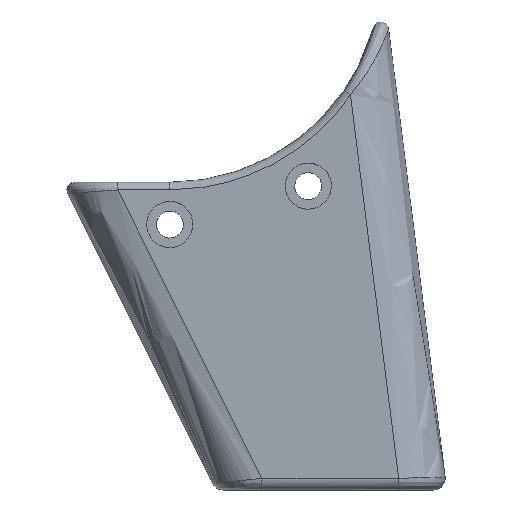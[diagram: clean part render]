
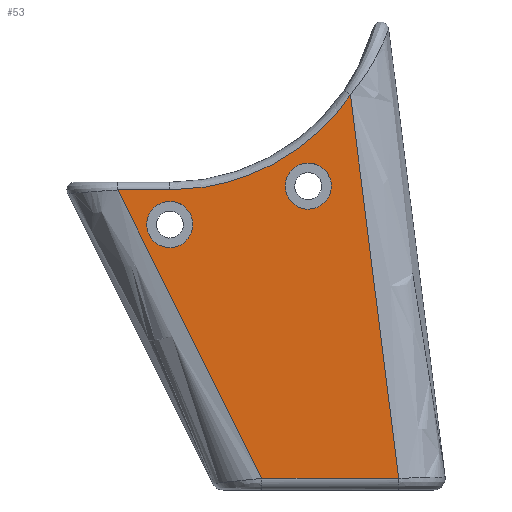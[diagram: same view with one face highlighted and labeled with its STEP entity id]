
A CAD part, top view. The second image highlights one B-rep face of the part: STEP entity #53.
In plain terms, the highlighted planar face has unit normal (0, 0, 1).
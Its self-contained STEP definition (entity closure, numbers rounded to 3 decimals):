
#18=FACE_BOUND('',#136,.T.);
#19=FACE_BOUND('',#137,.T.);
#53=ADVANCED_FACE('',(#92,#18,#19),#613,.T.);
#92=FACE_OUTER_BOUND('',#135,.T.);
#135=EDGE_LOOP('',(#286,#287,#288,#289,#290));
#136=EDGE_LOOP('',(#291,#292));
#137=EDGE_LOOP('',(#293,#294));
#286=ORIENTED_EDGE('',*,*,#353,.F.);
#287=ORIENTED_EDGE('',*,*,#398,.F.);
#288=ORIENTED_EDGE('',*,*,#400,.T.);
#289=ORIENTED_EDGE('',*,*,#401,.F.);
#290=ORIENTED_EDGE('',*,*,#359,.F.);
#291=ORIENTED_EDGE('',*,*,#423,.F.);
#292=ORIENTED_EDGE('',*,*,#402,.F.);
#293=ORIENTED_EDGE('',*,*,#420,.F.);
#294=ORIENTED_EDGE('',*,*,#403,.F.);
#353=EDGE_CURVE('',#536,#538,#435,.T.);
#359=EDGE_CURVE('',#538,#543,#492,.T.);
#398=EDGE_CURVE('',#553,#536,#510,.T.);
#400=EDGE_CURVE('',#553,#550,#512,.T.);
#401=EDGE_CURVE('',#543,#550,#513,.T.);
#402=EDGE_CURVE('',#565,#575,#460,.T.);
#403=EDGE_CURVE('',#563,#573,#461,.T.);
#420=EDGE_CURVE('',#573,#563,#475,.T.);
#423=EDGE_CURVE('',#575,#565,#478,.T.);
#435=(
BOUNDED_CURVE()
B_SPLINE_CURVE(1,(#1234,#1235),.UNSPECIFIED.,.F.,.F.)
B_SPLINE_CURVE_WITH_KNOTS((2,2),(0.5,7.292),
 .UNSPECIFIED.)
CURVE()
GEOMETRIC_REPRESENTATION_ITEM()
RATIONAL_B_SPLINE_CURVE((1.,1.))
REPRESENTATION_ITEM('')
);
#460=(
BOUNDED_CURVE()
B_SPLINE_CURVE(2,(#1429,#1430,#1431,#1432,#1433),.UNSPECIFIED.,.F.,.F.)
B_SPLINE_CURVE_WITH_KNOTS((3,2,3),(-18.85,-14.137,
-9.425),.UNSPECIFIED.)
CURVE()
GEOMETRIC_REPRESENTATION_ITEM()
RATIONAL_B_SPLINE_CURVE((1.,0.707,1.,0.707,1.))
REPRESENTATION_ITEM('')
);
#461=(
BOUNDED_CURVE()
B_SPLINE_CURVE(2,(#1434,#1435,#1436,#1437,#1438),.UNSPECIFIED.,.F.,.F.)
B_SPLINE_CURVE_WITH_KNOTS((3,2,3),(-18.85,-14.137,
-9.425),.UNSPECIFIED.)
CURVE()
GEOMETRIC_REPRESENTATION_ITEM()
RATIONAL_B_SPLINE_CURVE((1.,0.707,1.,0.707,1.))
REPRESENTATION_ITEM('')
);
#475=(
BOUNDED_CURVE()
B_SPLINE_CURVE(2,(#1494,#1495,#1496,#1497,#1498),.UNSPECIFIED.,.F.,.F.)
B_SPLINE_CURVE_WITH_KNOTS((3,2,3),(-9.425,-4.712,
0.),.UNSPECIFIED.)
CURVE()
GEOMETRIC_REPRESENTATION_ITEM()
RATIONAL_B_SPLINE_CURVE((1.,0.707,1.,0.707,1.))
REPRESENTATION_ITEM('')
);
#478=(
BOUNDED_CURVE()
B_SPLINE_CURVE(2,(#1506,#1507,#1508,#1509,#1510),.UNSPECIFIED.,.F.,.F.)
B_SPLINE_CURVE_WITH_KNOTS((3,2,3),(-9.425,-4.712,
0.),.UNSPECIFIED.)
CURVE()
GEOMETRIC_REPRESENTATION_ITEM()
RATIONAL_B_SPLINE_CURVE((1.,0.707,1.,0.707,1.))
REPRESENTATION_ITEM('')
);
#492=B_SPLINE_CURVE_WITH_KNOTS('',3,(#1270,#1271,#1272,#1273,#1274,#1275,
#1276,#1277,#1278,#1279,#1280,#1281),.UNSPECIFIED.,.F.,.F.,(4,2,2,2,2,4),
(0.,8.67,13.351,18.032,
23.893,27.603),.UNSPECIFIED.);
#510=B_SPLINE_CURVE_WITH_KNOTS('',1,(#1420,#1421),.UNSPECIFIED.,.F.,.F.,
(2,2),(-1.323,40.603),.UNSPECIFIED.);
#512=B_SPLINE_CURVE_WITH_KNOTS('',1,(#1425,#1426),.UNSPECIFIED.,.F.,.F.,
(2,2),(-17.994,-0.189),.UNSPECIFIED.);
#513=B_SPLINE_CURVE_WITH_KNOTS('',1,(#1427,#1428),.UNSPECIFIED.,.F.,.F.,
(2,2),(15.517,65.766),.UNSPECIFIED.);
#536=VERTEX_POINT('',#1123);
#538=VERTEX_POINT('',#1125);
#543=VERTEX_POINT('',#1130);
#550=VERTEX_POINT('',#1137);
#553=VERTEX_POINT('',#1140);
#563=VERTEX_POINT('',#1150);
#565=VERTEX_POINT('',#1152);
#573=VERTEX_POINT('',#1160);
#575=VERTEX_POINT('',#1162);
#613=PLANE('',#707);
#707=AXIS2_PLACEMENT_3D('',#1052,#716,$);
#716=DIRECTION('',(0.,0.,1.));
#1052=CARTESIAN_POINT('',(27.75,8.437,9.));
#1123=CARTESIAN_POINT('',(41.208,-28.5,9.));
#1125=CARTESIAN_POINT('',(48.,-28.5,9.));
#1130=CARTESIAN_POINT('',(71.486,-16.145,9.));
#1137=CARTESIAN_POINT('',(77.764,-66.,9.));
#1140=CARTESIAN_POINT('',(59.958,-66.,9.));
#1150=CARTESIAN_POINT('',(45.,-33.,9.));
#1152=CARTESIAN_POINT('',(63.,-28.,9.));
#1160=CARTESIAN_POINT('',(51.,-33.,9.));
#1162=CARTESIAN_POINT('',(69.,-28.,9.));
#1234=CARTESIAN_POINT('',(41.208,-28.5,9.));
#1235=CARTESIAN_POINT('',(48.,-28.5,9.));
#1270=CARTESIAN_POINT('',(48.,-28.5,9.));
#1271=CARTESIAN_POINT('',(50.89,-28.501,9.));
#1272=CARTESIAN_POINT('',(53.78,-28.057,9.));
#1273=CARTESIAN_POINT('',(58.026,-26.724,9.));
#1274=CARTESIAN_POINT('',(59.476,-26.134,9.));
#1275=CARTESIAN_POINT('',(62.26,-24.725,9.));
#1276=CARTESIAN_POINT('',(63.595,-23.906,9.));
#1277=CARTESIAN_POINT('',(66.429,-21.828,9.));
#1278=CARTESIAN_POINT('',(67.885,-20.51,9.));
#1279=CARTESIAN_POINT('',(70.018,-18.138,9.));
#1280=CARTESIAN_POINT('',(70.785,-17.164,9.));
#1281=CARTESIAN_POINT('',(71.486,-16.145,9.));
#1420=CARTESIAN_POINT('',(59.958,-66.,9.));
#1421=CARTESIAN_POINT('',(41.208,-28.5,9.));
#1425=CARTESIAN_POINT('',(59.958,-66.,9.));
#1426=CARTESIAN_POINT('',(77.764,-66.,9.));
#1427=CARTESIAN_POINT('',(71.486,-16.145,9.));
#1428=CARTESIAN_POINT('',(77.764,-66.,9.));
#1429=CARTESIAN_POINT('',(63.,-28.,9.));
#1430=CARTESIAN_POINT('',(63.,-31.,9.));
#1431=CARTESIAN_POINT('',(66.,-31.,9.));
#1432=CARTESIAN_POINT('',(69.,-31.,9.));
#1433=CARTESIAN_POINT('',(69.,-28.,9.));
#1434=CARTESIAN_POINT('',(45.,-33.,9.));
#1435=CARTESIAN_POINT('',(45.,-36.,9.));
#1436=CARTESIAN_POINT('',(48.,-36.,9.));
#1437=CARTESIAN_POINT('',(51.,-36.,9.));
#1438=CARTESIAN_POINT('',(51.,-33.,9.));
#1494=CARTESIAN_POINT('',(51.,-33.,9.));
#1495=CARTESIAN_POINT('',(51.,-30.,9.));
#1496=CARTESIAN_POINT('',(48.,-30.,9.));
#1497=CARTESIAN_POINT('',(45.,-30.,9.));
#1498=CARTESIAN_POINT('',(45.,-33.,9.));
#1506=CARTESIAN_POINT('',(69.,-28.,9.));
#1507=CARTESIAN_POINT('',(69.,-25.,9.));
#1508=CARTESIAN_POINT('',(66.,-25.,9.));
#1509=CARTESIAN_POINT('',(63.,-25.,9.));
#1510=CARTESIAN_POINT('',(63.,-28.,9.));
